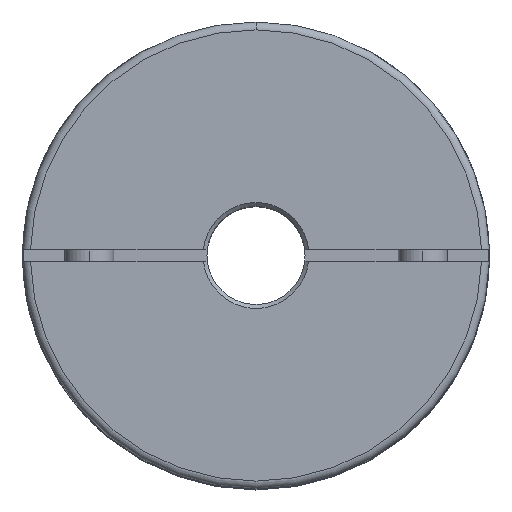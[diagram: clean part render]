
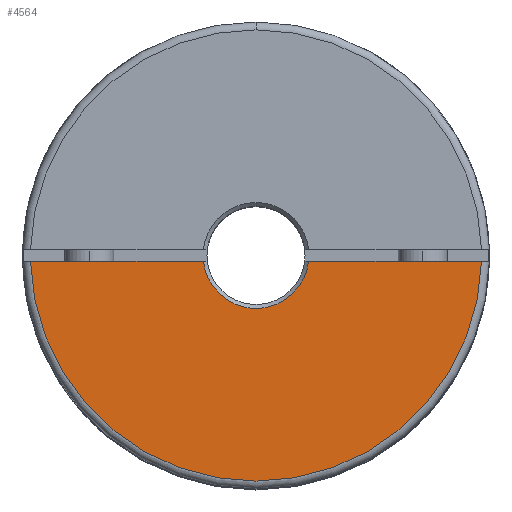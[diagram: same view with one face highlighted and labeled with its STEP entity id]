
A CAD part, top view. The second image highlights one B-rep face of the part: STEP entity #4564.
In plain terms, the highlighted planar face has unit normal (0, 0, 1).
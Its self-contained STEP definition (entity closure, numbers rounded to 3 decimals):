
#679 = CARTESIAN_POINT ( 'NONE',  ( 11.496, -0.3, 20.45 ) ) ;
#688 = CARTESIAN_POINT ( 'NONE',  ( -11.496, -0.3, 20.45 ) ) ;
#748 = CARTESIAN_POINT ( 'NONE',  ( -2.683, -0.3, 20.45 ) ) ;
#788 = CARTESIAN_POINT ( 'NONE',  ( 2.683, -0.3, 20.45 ) ) ;
#1076 = DIRECTION ( 'NONE',  ( 0., 1., 0. ) ) ;
#1081 = DIRECTION ( 'NONE',  ( 0., 0., 1. ) ) ;
#1085 = CARTESIAN_POINT ( 'NONE',  ( 0., 0., 20.45 ) ) ;
#1089 = PLANE ( 'NONE',  #6229 ) ;
#1750 = FACE_OUTER_BOUND ( 'NONE', #1943, .T. ) ;
#1943 = EDGE_LOOP ( 'NONE', ( #3649, #3434, #3436, #3472 ) ) ;
#2058 = LINE ( 'NONE', #5399, #2066 ) ;
#2063 = CIRCLE ( 'NONE', #6042, 2.7 ) ;
#2065 = LINE ( 'NONE', #5407, #2068 ) ;
#2066 = VECTOR ( 'NONE', #5389, 1000. ) ;
#2068 = VECTOR ( 'NONE', #5410, 1000. ) ;
#2069 = CIRCLE ( 'NONE', #6041, 11.5 ) ;
#3434 = ORIENTED_EDGE ( 'NONE', *, *, #6782, .T. ) ;
#3436 = ORIENTED_EDGE ( 'NONE', *, *, #6779, .F. ) ;
#3472 = ORIENTED_EDGE ( 'NONE', *, *, #6778, .T. ) ;
#3649 = ORIENTED_EDGE ( 'NONE', *, *, #6780, .F. ) ;
#4564 = ADVANCED_FACE ( 'NONE', ( #1750 ), #1089, .T. ) ;
#5126 = VERTEX_POINT ( 'NONE', #788 ) ;
#5197 = VERTEX_POINT ( 'NONE', #748 ) ;
#5297 = VERTEX_POINT ( 'NONE', #688 ) ;
#5306 = VERTEX_POINT ( 'NONE', #679 ) ;
#5389 = DIRECTION ( 'NONE',  ( 1., 0., 0. ) ) ;
#5399 = CARTESIAN_POINT ( 'NONE',  ( -11.9, -0.3, 20.45 ) ) ;
#5401 = CARTESIAN_POINT ( 'NONE',  ( 0., 0., 20.45 ) ) ;
#5402 = DIRECTION ( 'NONE',  ( 0., 0., -1. ) ) ;
#5404 = DIRECTION ( 'NONE',  ( 0., 1., 0. ) ) ;
#5407 = CARTESIAN_POINT ( 'NONE',  ( -11.9, -0.3, 20.45 ) ) ;
#5410 = DIRECTION ( 'NONE',  ( 1., 0., 0. ) ) ;
#5428 = CARTESIAN_POINT ( 'NONE',  ( 0., 0., 20.45 ) ) ;
#5430 = DIRECTION ( 'NONE',  ( 0., 0., 1. ) ) ;
#5431 = DIRECTION ( 'NONE',  ( 0., 1., 0. ) ) ;
#6041 = AXIS2_PLACEMENT_3D ( 'NONE', #5428, #5430, #5431 ) ;
#6042 = AXIS2_PLACEMENT_3D ( 'NONE', #5401, #5402, #5404 ) ;
#6229 = AXIS2_PLACEMENT_3D ( 'NONE', #1085, #1081, #1076 ) ;
#6778 = EDGE_CURVE ( 'NONE', #5126, #5197, #2063, .T. ) ;
#6779 = EDGE_CURVE ( 'NONE', #5126, #5306, #2058, .T. ) ;
#6780 = EDGE_CURVE ( 'NONE', #5297, #5197, #2065, .T. ) ;
#6782 = EDGE_CURVE ( 'NONE', #5297, #5306, #2069, .T. ) ;
